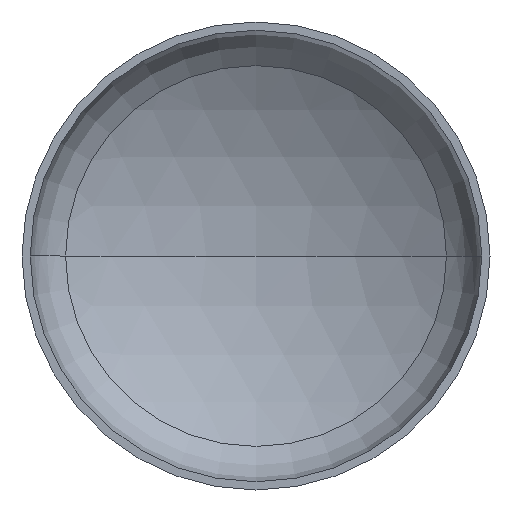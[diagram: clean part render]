
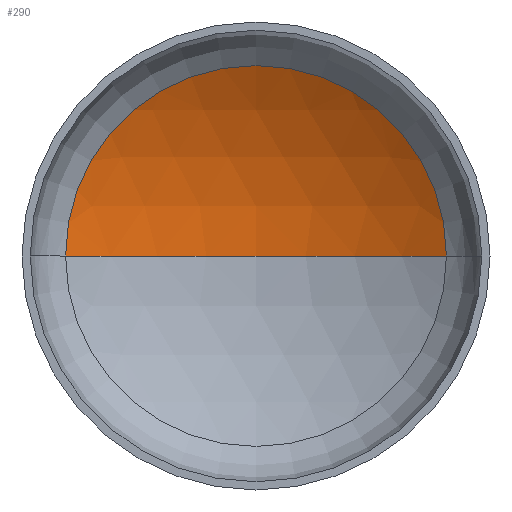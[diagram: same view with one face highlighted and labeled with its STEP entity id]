
A CAD part, front view. The second image highlights one B-rep face of the part: STEP entity #290.
In plain terms, the highlighted spherical face has radius 406 mm.
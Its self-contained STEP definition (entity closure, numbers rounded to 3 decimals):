
#1 = FACE_OUTER_BOUND ( 'NONE', #2, .T. ) ;
#2 = EDGE_LOOP ( 'NONE', ( #5, #178, #210 ) ) ;
#5 = ORIENTED_EDGE ( 'NONE', *, *, #238, .F. ) ;
#16 = CIRCLE ( 'NONE', #82, 206.713 ) ;
#27 = AXIS2_PLACEMENT_3D ( 'NONE', #99, #100, #97 ) ;
#52 = VERTEX_POINT ( 'NONE', #351 ) ;
#63 = CARTESIAN_POINT ( 'NONE',  ( 0., 153.697, 0. ) ) ;
#70 = AXIS2_PLACEMENT_3D ( 'NONE', #222, #220, #217 ) ;
#77 = AXIS2_PLACEMENT_3D ( 'NONE', #246, #245, #273 ) ;
#82 = AXIS2_PLACEMENT_3D ( 'NONE', #174, #193, #186 ) ;
#97 = DIRECTION ( 'NONE',  ( -1., 0., 0. ) ) ;
#99 = CARTESIAN_POINT ( 'NONE',  ( 0., -252.303, 0. ) ) ;
#100 = DIRECTION ( 'NONE',  ( 0., 0., -1. ) ) ;
#134 = VERTEX_POINT ( 'NONE', #334 ) ;
#174 = CARTESIAN_POINT ( 'NONE',  ( 0., 97.133, 0. ) ) ;
#178 = ORIENTED_EDGE ( 'NONE', *, *, #236, .T. ) ;
#186 = DIRECTION ( 'NONE',  ( 1., 0., 0. ) ) ;
#193 = DIRECTION ( 'NONE',  ( 0., -1., 0. ) ) ;
#194 = SPHERICAL_SURFACE ( 'NONE', #27, 406. ) ;
#210 = ORIENTED_EDGE ( 'NONE', *, *, #228, .T. ) ;
#217 = DIRECTION ( 'NONE',  ( 1., 0., 0. ) ) ;
#220 = DIRECTION ( 'NONE',  ( 0., 0., 1. ) ) ;
#222 = CARTESIAN_POINT ( 'NONE',  ( 0., -252.303, 0. ) ) ;
#228 = EDGE_CURVE ( 'NONE', #134, #52, #16, .T. ) ;
#232 = CIRCLE ( 'NONE', #77, 406. ) ;
#236 = EDGE_CURVE ( 'NONE', #398, #134, #232, .T. ) ;
#238 = EDGE_CURVE ( 'NONE', #398, #52, #287, .T. ) ;
#245 = DIRECTION ( 'NONE',  ( 0., 0., -1. ) ) ;
#246 = CARTESIAN_POINT ( 'NONE',  ( 0., -252.303, 0. ) ) ;
#273 = DIRECTION ( 'NONE',  ( -1., 0., 0. ) ) ;
#287 = CIRCLE ( 'NONE', #70, 406. ) ;
#290 = ADVANCED_FACE ( 'NONE', ( #1 ), #194, .F. ) ;
#334 = CARTESIAN_POINT ( 'NONE',  ( 206.713, 97.133, 0. ) ) ;
#351 = CARTESIAN_POINT ( 'NONE',  ( -206.713, 97.133, 0. ) ) ;
#398 = VERTEX_POINT ( 'NONE', #63 ) ;
